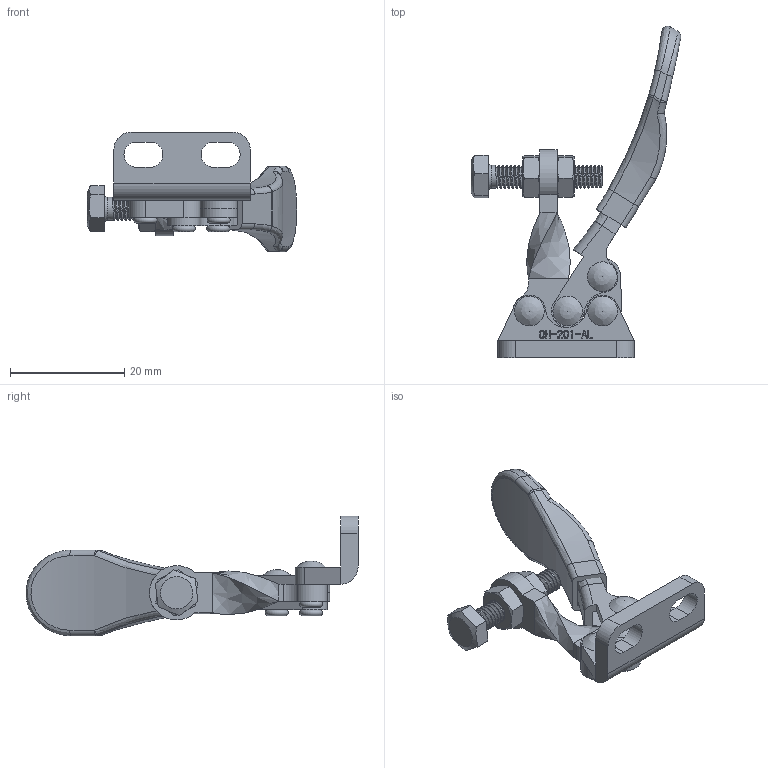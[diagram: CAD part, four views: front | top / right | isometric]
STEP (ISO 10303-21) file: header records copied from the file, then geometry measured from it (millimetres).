
FILE_DESCRIPTION(/* description */ ('STEP AP203'),/* implementation_level */ '2;1');
FILE_NAME(/* name */ 'E:\STRONA\Horizontal toggle clamp\CH-201-AL\CH-201-AL_OTWARTY.stp',/* time_stamp */ '2019-01-15T15:26:21+01:00',/* author */ ('Admin'),/* organization */ ('·L?¤¤?'),/* preprocessor_version */ 'ST-DEVELOPER v17.2',/* originating_system */ 'Autodesk Inventor 2019',/* authorisation */ '');
FILE_SCHEMA (('CONFIG_CONTROL_DESIGN','AUTOMOTIVE_DESIGN { 1 0 10303 214 3 1 1 }'));
Products named in the file (10): CH-201-AL_OTWARTY; 201-AL-01___; 201-A-02___; CH-SA-042007___; M4___; 201-06___; 201-03___; 201-A-03___; 201-05___; 201-A-04___
Assembly tree (14 placements, depth 3):
  CH-201-AL_OTWARTY
    201-AL-01___
    M4___  x2
    201-A-02___
    201-06___  x4
    CH-SA-042007___
    201-A-04___  x2
    201-03___
      201-A-03___
      201-05___
Bounding box: 36.63 x 58.02 x 20.94 mm (x, y, z)
Volume: 4335.8 mm3; surface area: 7075.2 mm2
Topology: 13 solids, 13 shells, 593 faces, 1633 edges, 1091 vertices
Faces by surface type: plane 248, bspline 195, cylinder 111, torus 19, cone 14, sphere 6
Full cylindrical faces by diameter (mm): 0.7 x1, 1.1 x1, 2.4 x4, 3 x16, 3.2 x4, 4 x26, 4.3 x1
Entity records: 46770 total; most frequent: CARTESIAN_POINT 33754, ORIENTED_EDGE 3002, DIRECTION 1989, EDGE_CURVE 1501, VERTEX_POINT 1002, LINE 805, VECTOR 805, EDGE_LOOP 603
